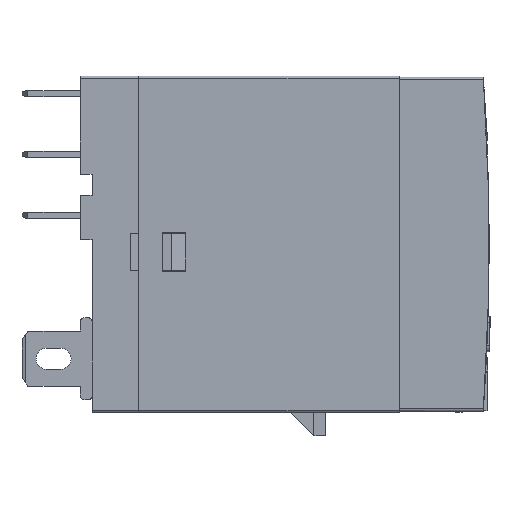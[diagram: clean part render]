
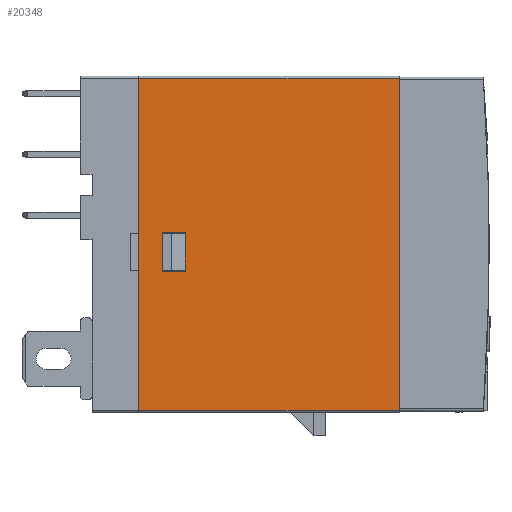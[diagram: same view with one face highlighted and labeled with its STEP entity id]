
A CAD part, front view. The second image highlights one B-rep face of the part: STEP entity #20348.
In plain terms, the highlighted planar face has unit normal (0, -1, 0).
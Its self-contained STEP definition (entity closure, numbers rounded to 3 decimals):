
#1781 = EDGE_CURVE ( 'NONE', #75336, #33104, #21324, .T. ) ;
#2637 = CARTESIAN_POINT ( 'NONE',  ( 6., 0., 15.2 ) ) ;
#3092 = VERTEX_POINT ( 'NONE', #75776 ) ;
#3774 = VECTOR ( 'NONE', #40899, 1000. ) ;
#9971 = VECTOR ( 'NONE', #57245, 1000. ) ;
#10536 = EDGE_CURVE ( 'NONE', #75336, #3092, #65292, .T. ) ;
#11330 = VECTOR ( 'NONE', #44366, 1000. ) ;
#11437 = CARTESIAN_POINT ( 'NONE',  ( 4., 0., 0. ) ) ;
#11601 = VECTOR ( 'NONE', #25498, 1000. ) ;
#14428 = DIRECTION ( 'NONE',  ( 0., 1., 0. ) ) ;
#16602 = ORIENTED_EDGE ( 'NONE', *, *, #76264, .F. ) ;
#17983 = VERTEX_POINT ( 'NONE', #11437 ) ;
#18206 = DIRECTION ( 'NONE',  ( 0., 0., 1. ) ) ;
#19491 = CARTESIAN_POINT ( 'NONE',  ( 4., 0., 14.2 ) ) ;
#20348 = ADVANCED_FACE ( 'NONE', ( #21254, #59813 ), #27717, .F. ) ;
#21254 = FACE_BOUND ( 'NONE', #39576, .T. ) ;
#21324 = LINE ( 'NONE', #22188, #64672 ) ;
#22188 = CARTESIAN_POINT ( 'NONE',  ( 26.3, 0., 28.4 ) ) ;
#22375 = CARTESIAN_POINT ( 'NONE',  ( 8., 0., 15.2 ) ) ;
#23045 = VECTOR ( 'NONE', #18206, 1000. ) ;
#25498 = DIRECTION ( 'NONE',  ( 0., 0., -1. ) ) ;
#27135 = LINE ( 'NONE', #22375, #52456 ) ;
#27717 = PLANE ( 'NONE',  #70341 ) ;
#27724 = CARTESIAN_POINT ( 'NONE',  ( 6., 0., 15.2 ) ) ;
#28011 = CARTESIAN_POINT ( 'NONE',  ( 8., 0., 11.9 ) ) ;
#29391 = CARTESIAN_POINT ( 'NONE',  ( 6., 0., 11.9 ) ) ;
#31244 = EDGE_CURVE ( 'NONE', #67855, #77662, #46462, .T. ) ;
#32968 = ORIENTED_EDGE ( 'NONE', *, *, #1781, .T. ) ;
#33104 = VERTEX_POINT ( 'NONE', #55766 ) ;
#33723 = EDGE_CURVE ( 'NONE', #77662, #36121, #50774, .T. ) ;
#36121 = VERTEX_POINT ( 'NONE', #37729 ) ;
#37560 = LINE ( 'NONE', #19491, #9971 ) ;
#37729 = CARTESIAN_POINT ( 'NONE',  ( 8., 0., 15.2 ) ) ;
#39576 = EDGE_LOOP ( 'NONE', ( #16602, #47720, #64195, #76994 ) ) ;
#40047 = LINE ( 'NONE', #53755, #3774 ) ;
#40899 = DIRECTION ( 'NONE',  ( 1., 0., 0. ) ) ;
#44366 = DIRECTION ( 'NONE',  ( 0., 0., -1. ) ) ;
#46462 = LINE ( 'NONE', #28011, #59661 ) ;
#47705 = DIRECTION ( 'NONE',  ( -1., 0., 0. ) ) ;
#47720 = ORIENTED_EDGE ( 'NONE', *, *, #33723, .F. ) ;
#50072 = EDGE_CURVE ( 'NONE', #33104, #17983, #37560, .T. ) ;
#50774 = LINE ( 'NONE', #64021, #23045 ) ;
#50965 = CARTESIAN_POINT ( 'NONE',  ( 8., 0., 11.9 ) ) ;
#52456 = VECTOR ( 'NONE', #47705, 1000. ) ;
#53755 = CARTESIAN_POINT ( 'NONE',  ( 26.3, 0., 0. ) ) ;
#53857 = DIRECTION ( 'NONE',  ( -1., 0., 0. ) ) ;
#53925 = DIRECTION ( 'NONE',  ( -1., 0., 0. ) ) ;
#54589 = VERTEX_POINT ( 'NONE', #27724 ) ;
#55766 = CARTESIAN_POINT ( 'NONE',  ( 4., 0., 28.4 ) ) ;
#57245 = DIRECTION ( 'NONE',  ( 0., 0., -1. ) ) ;
#59275 = CARTESIAN_POINT ( 'NONE',  ( 26.3, 0., 28.6 ) ) ;
#59412 = CARTESIAN_POINT ( 'NONE',  ( 26.3, 0., 14.2 ) ) ;
#59661 = VECTOR ( 'NONE', #60115, 1000. ) ;
#59813 = FACE_OUTER_BOUND ( 'NONE', #84574, .T. ) ;
#60115 = DIRECTION ( 'NONE',  ( 1., 0., 0. ) ) ;
#61940 = ORIENTED_EDGE ( 'NONE', *, *, #50072, .T. ) ;
#64021 = CARTESIAN_POINT ( 'NONE',  ( 8., 0., 11.9 ) ) ;
#64195 = ORIENTED_EDGE ( 'NONE', *, *, #31244, .F. ) ;
#64672 = VECTOR ( 'NONE', #53925, 1000. ) ;
#65292 = LINE ( 'NONE', #59275, #11601 ) ;
#66416 = EDGE_CURVE ( 'NONE', #54589, #67855, #74849, .T. ) ;
#67855 = VERTEX_POINT ( 'NONE', #29391 ) ;
#69533 = ORIENTED_EDGE ( 'NONE', *, *, #69713, .T. ) ;
#69713 = EDGE_CURVE ( 'NONE', #17983, #3092, #40047, .T. ) ;
#70341 = AXIS2_PLACEMENT_3D ( 'NONE', #59412, #14428, #53857 ) ;
#74471 = CARTESIAN_POINT ( 'NONE',  ( 26.3, 0., 28.4 ) ) ;
#74849 = LINE ( 'NONE', #2637, #11330 ) ;
#75336 = VERTEX_POINT ( 'NONE', #74471 ) ;
#75776 = CARTESIAN_POINT ( 'NONE',  ( 26.3, 0., 0. ) ) ;
#76264 = EDGE_CURVE ( 'NONE', #36121, #54589, #27135, .T. ) ;
#76994 = ORIENTED_EDGE ( 'NONE', *, *, #66416, .F. ) ;
#77317 = ORIENTED_EDGE ( 'NONE', *, *, #10536, .F. ) ;
#77662 = VERTEX_POINT ( 'NONE', #50965 ) ;
#84574 = EDGE_LOOP ( 'NONE', ( #77317, #32968, #61940, #69533 ) ) ;
